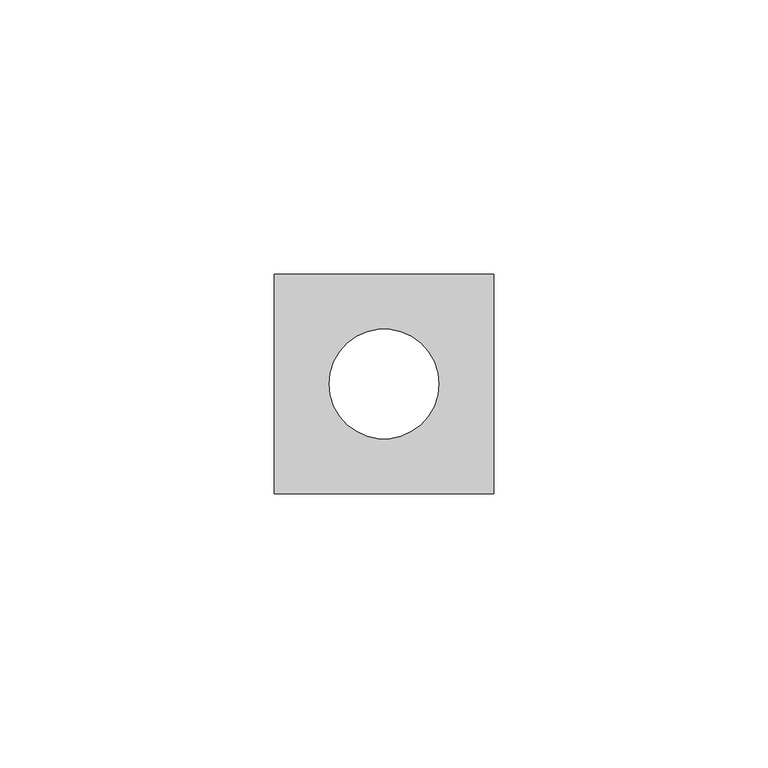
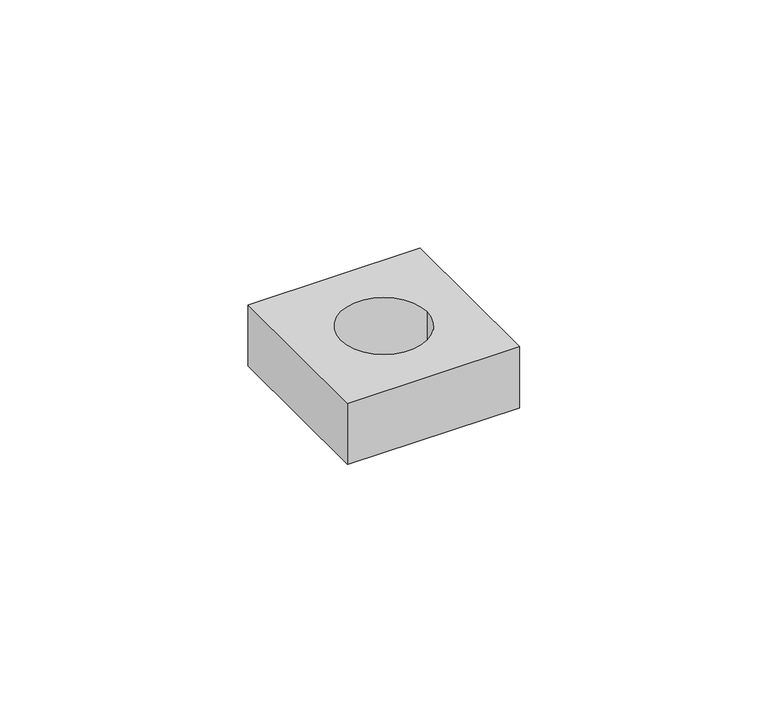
"""IFC4 building model written with IfcOpenShell, lengths in millimetres: duct fitting geometry, Модуль для крышек : 40мм."""

from ifc_helpers import new_model, si_unit, point, origin, origin_with_axes, origin_2d, place, context, project, spatial, polyline, circle_curve, trimmed, segment, composite_curve, outline, extrude, source, transform, mapped, element, save


def duct_fitting_e132af29(model_context):
    return source(origin(), model_context, "Body", "SweptSolid", [
        extrude(outline(polyline([(20.0, 20.0), (20.0, -20.0), (-20.0, -20.0), (-20.0, 20.0), (20.0, 20.0)]), holes=[composite_curve([segment(trimmed(circle_curve(origin_2d(), 10.0), [point((-10.0, 0.0))], [point((10.0, 0.0))], True, "CARTESIAN"), True, "CONTINUOUS"), segment(trimmed(circle_curve(origin_2d(), 10.0), [point((10.0, 0.0))], [point((-10.0, 0.0))], True, "CARTESIAN"), True, "CONTINUOUS")], self_intersect=False)]), origin_with_axes(), (0.0, 0.0, 1.0), 15.0),
    ])


if __name__ == "__main__":
    model = new_model("IFC4")
    model_context = context("Model", 3, world=origin())
    ifc_project = project(units=[si_unit("LENGTHUNIT", "METRE", prefix="MILLI")], contexts=[model_context])
    site = spatial("IfcSite", under=ifc_project)
    building = spatial("IfcBuilding", under=site)
    placement = place(None, origin())
    duct_fitting_shape = duct_fitting_e132af29(model_context)
    element("IfcDuctFitting", 1, ObjectType="Модуль для крышек : 40мм", at=placement, inside=building, context=model_context, shape_type="MappedRepresentation", body=[
        mapped(duct_fitting_shape, transform((0.0, 0.0, 0.0), x_axis=(1.0, 0.0, 0.0), y_axis=(0.0, 1.0, 0.0), z_axis=(0.0, 0.0, 1.0))),
    ])
    save(model, "model.ifc")
